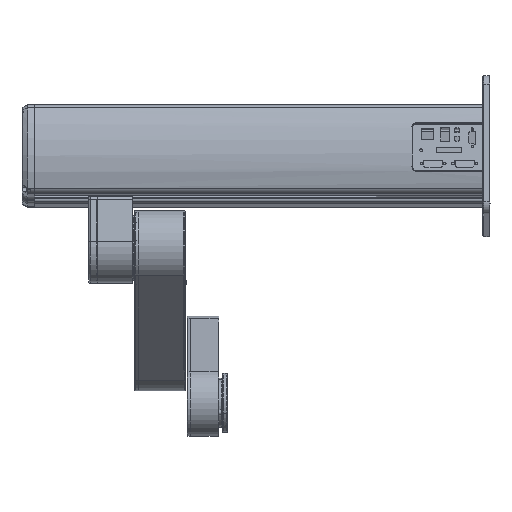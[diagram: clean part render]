
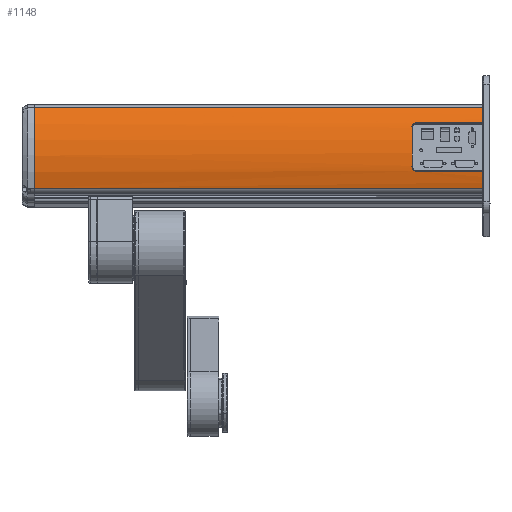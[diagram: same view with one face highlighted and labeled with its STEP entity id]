
A CAD part, front view. The second image highlights one B-rep face of the part: STEP entity #1148.
In plain terms, the highlighted cylindrical face has radius 140 mm (diameter 280 mm), a partial arc.
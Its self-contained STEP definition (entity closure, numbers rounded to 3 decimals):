
#1008=CARTESIAN_POINT('Vertex',(638.,-61.837,57.077)) ;
#1015=CARTESIAN_POINT('Vertex',(0.,-61.837,57.077)) ;
#1018=CARTESIAN_POINT('Line Origine',(319.,-61.837,57.077)) ;
#1030=CARTESIAN_POINT('Axis2P3D Location',(319.,66.,0.)) ;
#1035=CARTESIAN_POINT('Axis2P3D Location',(0.,66.,0.)) ;
#1039=CARTESIAN_POINT('Vertex',(0.,-63.,54.397)) ;
#1042=CARTESIAN_POINT('Axis2P3D Location',(0.,66.,0.)) ;
#1046=CARTESIAN_POINT('Vertex',(0.,-60.853,-59.231)) ;
#1049=CARTESIAN_POINT('Line Origine',(319.66,-60.853,-59.231)) ;
#1053=CARTESIAN_POINT('Vertex',(638.,-60.853,-59.231)) ;
#1056=CARTESIAN_POINT('Axis2P3D Location',(638.,66.,0.)) ;
#1060=CARTESIAN_POINT('Vertex',(638.,-69.301,-35.966)) ;
#1063=CARTESIAN_POINT('Line Origine',(319.66,-69.301,-35.966)) ;
#1067=CARTESIAN_POINT('Vertex',(543.,-69.301,-35.966)) ;
#1071=CARTESIAN_POINT('Control Point',(537.,-70.7,-30.216)) ;
#1072=CARTESIAN_POINT('Control Point',(537.033,-70.295,-32.051)) ;
#1073=CARTESIAN_POINT('Control Point',(537.805,-69.868,-33.839)) ;
#1074=CARTESIAN_POINT('Control Point',(539.268,-69.491,-35.254)) ;
#1075=CARTESIAN_POINT('Control Point',(541.145,-69.301,-35.966)) ;
#1076=CARTESIAN_POINT('Control Point',(543.,-69.301,-35.966)) ;
#1077=CARTESIAN_POINT('Vertex',(537.,-70.701,-30.216)) ;
#1081=CARTESIAN_POINT('Control Point',(537.,-71.057,-28.557)) ;
#1082=CARTESIAN_POINT('Control Point',(537.,-70.941,-29.11)) ;
#1083=CARTESIAN_POINT('Control Point',(536.99,-70.822,-29.664)) ;
#1084=CARTESIAN_POINT('Control Point',(537.,-70.7,-30.216)) ;
#1085=CARTESIAN_POINT('Vertex',(537.,-71.057,-28.557)) ;
#1088=CARTESIAN_POINT('Axis2P3D Location',(537.,66.,0.)) ;
#1092=CARTESIAN_POINT('Vertex',(537.,-71.462,26.537)) ;
#1096=CARTESIAN_POINT('Control Point',(537.,-71.13,28.201)) ;
#1097=CARTESIAN_POINT('Control Point',(536.991,-71.244,27.648)) ;
#1098=CARTESIAN_POINT('Control Point',(537.,-71.355,27.093)) ;
#1099=CARTESIAN_POINT('Control Point',(537.,-71.462,26.537)) ;
#1100=CARTESIAN_POINT('Vertex',(537.,-71.13,28.201)) ;
#1104=CARTESIAN_POINT('Control Point',(543.,-69.816,33.97)) ;
#1105=CARTESIAN_POINT('Control Point',(541.145,-69.816,33.97)) ;
#1106=CARTESIAN_POINT('Control Point',(539.27,-69.994,33.257)) ;
#1107=CARTESIAN_POINT('Control Point',(537.802,-70.35,31.839)) ;
#1108=CARTESIAN_POINT('Control Point',(537.031,-70.752,30.042)) ;
#1109=CARTESIAN_POINT('Control Point',(537.,-71.13,28.201)) ;
#1110=CARTESIAN_POINT('Vertex',(543.,-69.816,33.97)) ;
#1113=CARTESIAN_POINT('Line Origine',(319.66,-69.816,33.97)) ;
#1117=CARTESIAN_POINT('Vertex',(638.,-69.816,33.97)) ;
#1120=CARTESIAN_POINT('Axis2P3D Location',(638.,66.,0.)) ;
#1124=CARTESIAN_POINT('Vertex',(638.,-63.,54.397)) ;
#1127=CARTESIAN_POINT('Axis2P3D Location',(638.,66.,0.)) ;
#1019=DIRECTION('Vector Direction',(-1.,0.,0.)) ;
#1031=DIRECTION('Axis2P3D Direction',(1.,0.,0.)) ;
#1032=DIRECTION('Axis2P3D XDirection',(0.,-0.736,0.677)) ;
#1036=DIRECTION('Axis2P3D Direction',(1.,0.,0.)) ;
#1043=DIRECTION('Axis2P3D Direction',(1.,0.,0.)) ;
#1050=DIRECTION('Vector Direction',(1.,0.,0.)) ;
#1057=DIRECTION('Axis2P3D Direction',(1.,0.,0.)) ;
#1064=DIRECTION('Vector Direction',(1.,0.,0.)) ;
#1089=DIRECTION('Axis2P3D Direction',(1.,0.,0.)) ;
#1114=DIRECTION('Vector Direction',(1.,0.,0.)) ;
#1121=DIRECTION('Axis2P3D Direction',(1.,0.,0.)) ;
#1128=DIRECTION('Axis2P3D Direction',(1.,0.,0.)) ;
#1033=AXIS2_PLACEMENT_3D('Cylinder Axis2P3D',#1030,#1031,#1032) ;
#1037=AXIS2_PLACEMENT_3D('Circle Axis2P3D',#1035,#1036,$) ;
#1044=AXIS2_PLACEMENT_3D('Circle Axis2P3D',#1042,#1043,$) ;
#1058=AXIS2_PLACEMENT_3D('Circle Axis2P3D',#1056,#1057,$) ;
#1090=AXIS2_PLACEMENT_3D('Circle Axis2P3D',#1088,#1089,$) ;
#1122=AXIS2_PLACEMENT_3D('Circle Axis2P3D',#1120,#1121,$) ;
#1129=AXIS2_PLACEMENT_3D('Circle Axis2P3D',#1127,#1128,$) ;
#1133=ORIENTED_EDGE('',*,*,#1041,.T.) ;
#1134=ORIENTED_EDGE('',*,*,#1048,.T.) ;
#1135=ORIENTED_EDGE('',*,*,#1055,.T.) ;
#1136=ORIENTED_EDGE('',*,*,#1062,.F.) ;
#1137=ORIENTED_EDGE('',*,*,#1069,.F.) ;
#1138=ORIENTED_EDGE('',*,*,#1079,.F.) ;
#1139=ORIENTED_EDGE('',*,*,#1087,.F.) ;
#1140=ORIENTED_EDGE('',*,*,#1094,.F.) ;
#1141=ORIENTED_EDGE('',*,*,#1102,.F.) ;
#1142=ORIENTED_EDGE('',*,*,#1112,.F.) ;
#1143=ORIENTED_EDGE('',*,*,#1119,.F.) ;
#1144=ORIENTED_EDGE('',*,*,#1126,.F.) ;
#1145=ORIENTED_EDGE('',*,*,#1131,.F.) ;
#1146=ORIENTED_EDGE('',*,*,#1022,.F.) ;
#1020=VECTOR('Line Direction',#1019,1.) ;
#1051=VECTOR('Line Direction',#1050,1.) ;
#1065=VECTOR('Line Direction',#1064,1.) ;
#1115=VECTOR('Line Direction',#1114,1.) ;
#1148=ADVANCED_FACE('\X2\96F64EF651E04F554F53\X0\',(#1147),#1034,.T.) ;
#1070=B_SPLINE_CURVE_WITH_KNOTS('',5,(#1071,#1072,#1073,#1074,#1075,#1076),.UNSPECIFIED.,.F.,.U.,(6,6),(18.811,31.042),.UNSPECIFIED.) ;
#1080=B_SPLINE_CURVE_WITH_KNOTS('',3,(#1081,#1082,#1083,#1084),.UNSPECIFIED.,.F.,.U.,(4,4),(468.581,470.278),.UNSPECIFIED.) ;
#1095=B_SPLINE_CURVE_WITH_KNOTS('',3,(#1096,#1097,#1098,#1099),.UNSPECIFIED.,.F.,.U.,(4,4),(411.427,413.124),.UNSPECIFIED.) ;
#1103=B_SPLINE_CURVE_WITH_KNOTS('',5,(#1104,#1105,#1106,#1107,#1108,#1109),.UNSPECIFIED.,.F.,.U.,(6,6),(18.475,30.701),.UNSPECIFIED.) ;
#1038=CIRCLE('generated circle',#1037,140.) ;
#1045=CIRCLE('generated circle',#1044,140.) ;
#1059=CIRCLE('generated circle',#1058,140.) ;
#1091=CIRCLE('generated circle',#1090,140.) ;
#1123=CIRCLE('generated circle',#1122,140.) ;
#1130=CIRCLE('generated circle',#1129,140.) ;
#1034=CYLINDRICAL_SURFACE('generated cylinder',#1033,140.) ;
#1022=EDGE_CURVE('',#1016,#1009,#1021,.F.) ;
#1041=EDGE_CURVE('',#1016,#1040,#1038,.T.) ;
#1048=EDGE_CURVE('',#1040,#1047,#1045,.T.) ;
#1055=EDGE_CURVE('',#1047,#1054,#1052,.T.) ;
#1062=EDGE_CURVE('',#1061,#1054,#1059,.T.) ;
#1069=EDGE_CURVE('',#1068,#1061,#1066,.T.) ;
#1079=EDGE_CURVE('',#1078,#1068,#1070,.T.) ;
#1087=EDGE_CURVE('',#1086,#1078,#1080,.T.) ;
#1094=EDGE_CURVE('',#1093,#1086,#1091,.T.) ;
#1102=EDGE_CURVE('',#1101,#1093,#1095,.T.) ;
#1112=EDGE_CURVE('',#1111,#1101,#1103,.T.) ;
#1119=EDGE_CURVE('',#1118,#1111,#1116,.F.) ;
#1126=EDGE_CURVE('',#1125,#1118,#1123,.T.) ;
#1131=EDGE_CURVE('',#1009,#1125,#1130,.T.) ;
#1132=EDGE_LOOP('',(#1133,#1134,#1135,#1136,#1137,#1138,#1139,#1140,#1141,#1142,#1143,#1144,#1145,#1146)) ;
#1147=FACE_OUTER_BOUND('',#1132,.T.) ;
#1021=LINE('Line',#1018,#1020) ;
#1052=LINE('Line',#1049,#1051) ;
#1066=LINE('Line',#1063,#1065) ;
#1116=LINE('Line',#1113,#1115) ;
#1009=VERTEX_POINT('',#1008) ;
#1016=VERTEX_POINT('',#1015) ;
#1040=VERTEX_POINT('',#1039) ;
#1047=VERTEX_POINT('',#1046) ;
#1054=VERTEX_POINT('',#1053) ;
#1061=VERTEX_POINT('',#1060) ;
#1068=VERTEX_POINT('',#1067) ;
#1078=VERTEX_POINT('',#1077) ;
#1086=VERTEX_POINT('',#1085) ;
#1093=VERTEX_POINT('',#1092) ;
#1101=VERTEX_POINT('',#1100) ;
#1111=VERTEX_POINT('',#1110) ;
#1118=VERTEX_POINT('',#1117) ;
#1125=VERTEX_POINT('',#1124) ;
